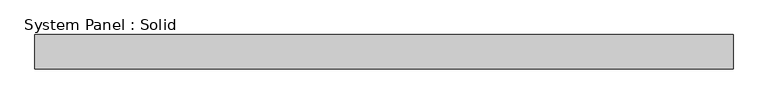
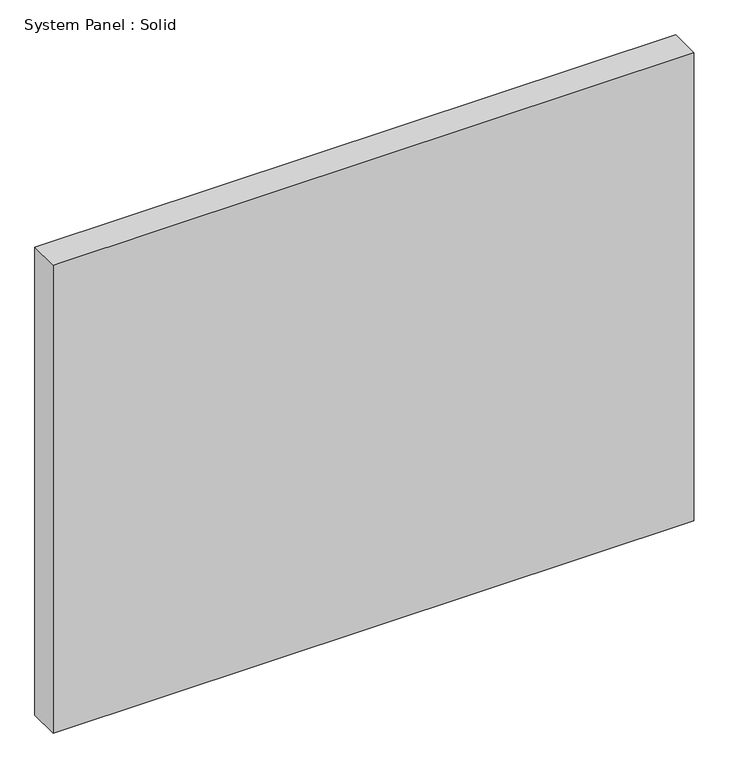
"""IFC4 building model written with IfcOpenShell, lengths in millimetres: plate geometry, System Panel : Solid."""

from ifc_helpers import new_model, si_unit, origin, origin_with_axes, place, context, project, spatial, polyline, outline, extrude, source, transform, mapped, element, save


def system_panel_solid_a9bfbdf1(model_context):
    return source(origin(), model_context, "Body", "SweptSolid", [
        extrude(outline(polyline([(645.5833332, -44.45), (-645.5833332, -44.45), (-645.5833332, 19.05), (645.5833332, 19.05), (645.5833332, -44.45)])), origin_with_axes(), (0.0, 0.0, 1.0), 996.95),
    ])


if __name__ == "__main__":
    model = new_model("IFC4")
    model_context = context("Model", 3, world=origin())
    ifc_project = project(units=[si_unit("LENGTHUNIT", "METRE", prefix="MILLI")], contexts=[model_context])
    site = spatial("IfcSite", under=ifc_project)
    building = spatial("IfcBuilding", under=site)
    placement = place(None, origin())
    system_panel_solid_shape = system_panel_solid_a9bfbdf1(model_context)
    element("IfcPlate", 1, ObjectType="System Panel : Solid", at=placement, inside=building, context=model_context, shape_type="MappedRepresentation", body=[
        mapped(system_panel_solid_shape, transform((0.0, 0.0, 0.0), x_axis=(1.0, 0.0, 0.0), y_axis=(0.0, 1.0, 0.0), z_axis=(0.0, 0.0, 1.0))),
    ])
    save(model, "model.ifc")
